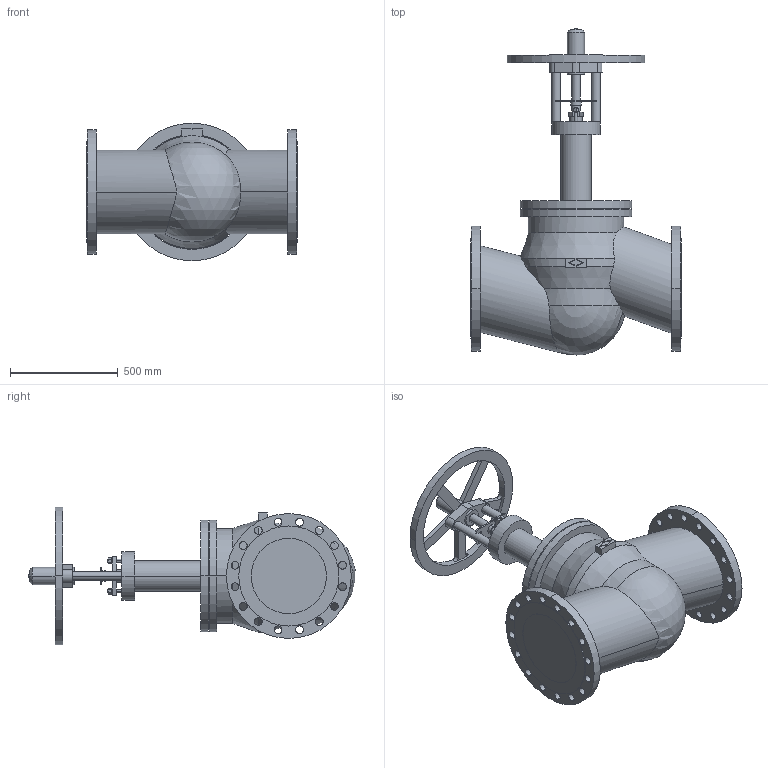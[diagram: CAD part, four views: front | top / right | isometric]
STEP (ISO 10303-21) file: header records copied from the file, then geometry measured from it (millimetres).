
FILE_DESCRIPTION(('Creo Elements/Direct Modeling STEP Export'),'2;1');
FILE_NAME('c000005012.stp','2012-09-19T12:00:46',(''),(''),'Creo Elements/Direct Modeling STEP processor for AP203 (Solid Model)','Creo Elements/Direct Modeling 17.0D 15-Jul-2011 (C) Parametric Technology GmbH','');
FILE_SCHEMA(('CONFIG_CONTROL_DESIGN'));
Length unit declared in the file: millimetre
Products named in the file (1): 1
Bounding box: 980 x 1515.64 x 640 mm (x, y, z)
Volume: 210239684.9 mm3; surface area: 3899469.5 mm2
Topology: 1 solids, 1 shells, 276 faces, 742 edges, 491 vertices
Faces by surface type: cylinder 161, plane 109, cone 5, sphere 1
Entity records: 8719 total; most frequent: CARTESIAN_POINT 1779, ORIENTED_EDGE 1480, DIRECTION 1354, EDGE_CURVE 740, AXIS2_PLACEMENT_3D 492, VERTEX_POINT 491, EDGE_LOOP 383, VECTOR 370
